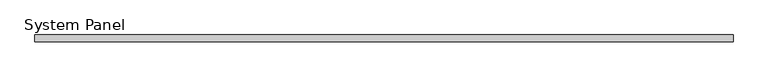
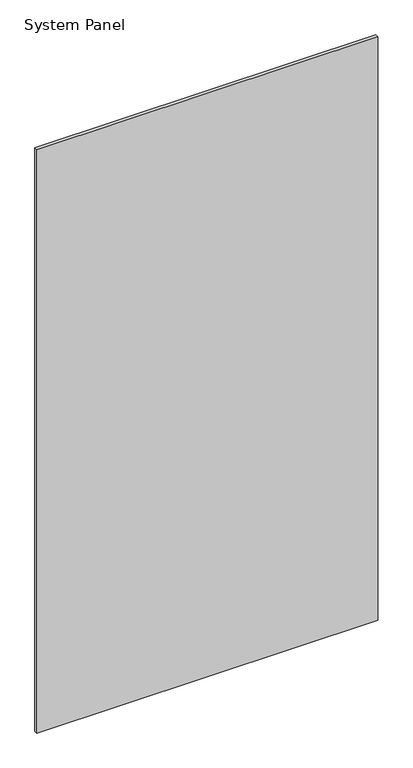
"""IFC4 building model written with IfcOpenShell, lengths in millimetres: plate geometry, System Panel : стекло_смещение_0."""

from ifc_helpers import new_model, si_unit, origin, origin_with_axes, place, context, project, spatial, polyline, outline, extrude, source, transform, mapped, element, save


def system_panel_8eead3f1(model_context):
    return source(origin(), model_context, "Body", "SweptSolid", [
        extrude(outline(polyline([(525.0, -5.0), (-525.0, -5.0), (-525.0, 5.0), (525.0, 5.0), (525.0, -5.0)])), origin_with_axes(), (0.0, 0.0, 1.0), 1900.0),
    ])


if __name__ == "__main__":
    model = new_model("IFC4")
    model_context = context("Model", 3, world=origin())
    ifc_project = project(units=[si_unit("LENGTHUNIT", "METRE", prefix="MILLI")], contexts=[model_context])
    site = spatial("IfcSite", under=ifc_project)
    building = spatial("IfcBuilding", under=site)
    placement = place(None, origin())
    system_panel_shape = system_panel_8eead3f1(model_context)
    element("IfcPlate", 1, ObjectType="System Panel : стекло_смещение_0", at=placement, inside=building, context=model_context, shape_type="MappedRepresentation", body=[
        mapped(system_panel_shape, transform((0.0, 0.0, 0.0), x_axis=(1.0, 0.0, 0.0), y_axis=(0.0, 1.0, 0.0), z_axis=(0.0, 0.0, 1.0))),
    ])
    save(model, "model.ifc")
